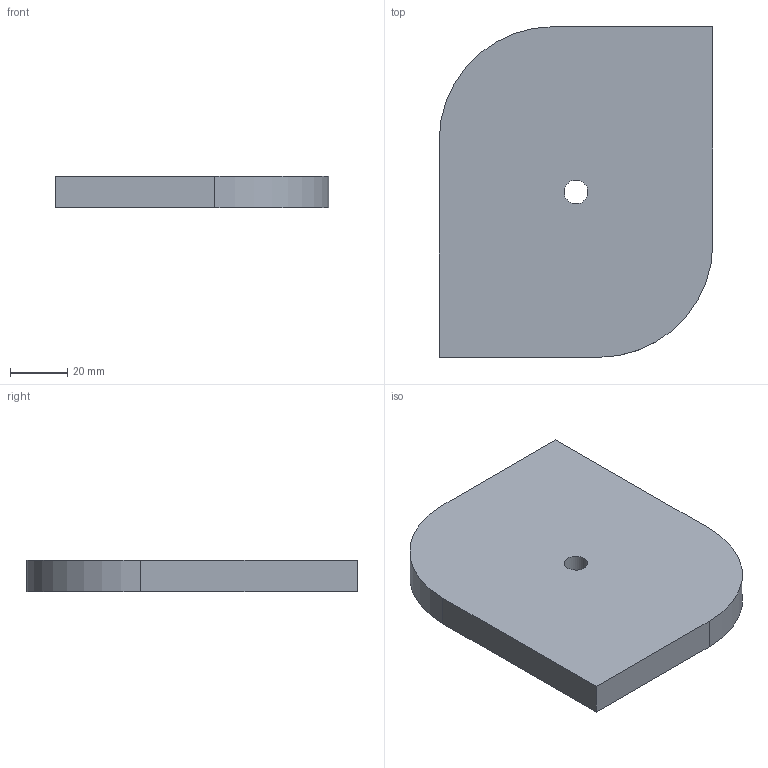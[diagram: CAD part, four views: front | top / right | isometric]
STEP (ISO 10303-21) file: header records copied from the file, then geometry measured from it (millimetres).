
FILE_DESCRIPTION(('CATIA V5 STEP Exchange'),'2;1');
FILE_NAME('C:\_Andres\UNIVERSIDAD\IQS\ASIGNATURAS\DAO\EXF\EXF-15161c\1original\Esteva_Esteve_Ej01-plano_v6.stp','2016-03-04T14:59:43+00:00',('none'),('none'),'CATIA Version 5 Release 20 SP 1 (IN-10)','CATIA V5 STEP AP203','none');
FILE_SCHEMA(('CONFIG_CONTROL_DESIGN'));
Length unit declared in the file: millimetre
Products named in the file (1): Esteva_Esteve_Ej01-plano_v6
Bounding box: 96 x 116 x 11 mm (x, y, z)
Volume: 114335.9 mm3; surface area: 25364.1 mm2
Topology: 1 solids, 1 shells, 10 faces, 24 edges, 16 vertices
Faces by surface type: plane 6, cylinder 4
Entity records: 333 total; most frequent: CARTESIAN_POINT 51, ORIENTED_EDGE 48, DIRECTION 44, EDGE_CURVE 24, AXIS2_PLACEMENT_3D 19, VECTOR 16, LINE 16, VERTEX_POINT 16
